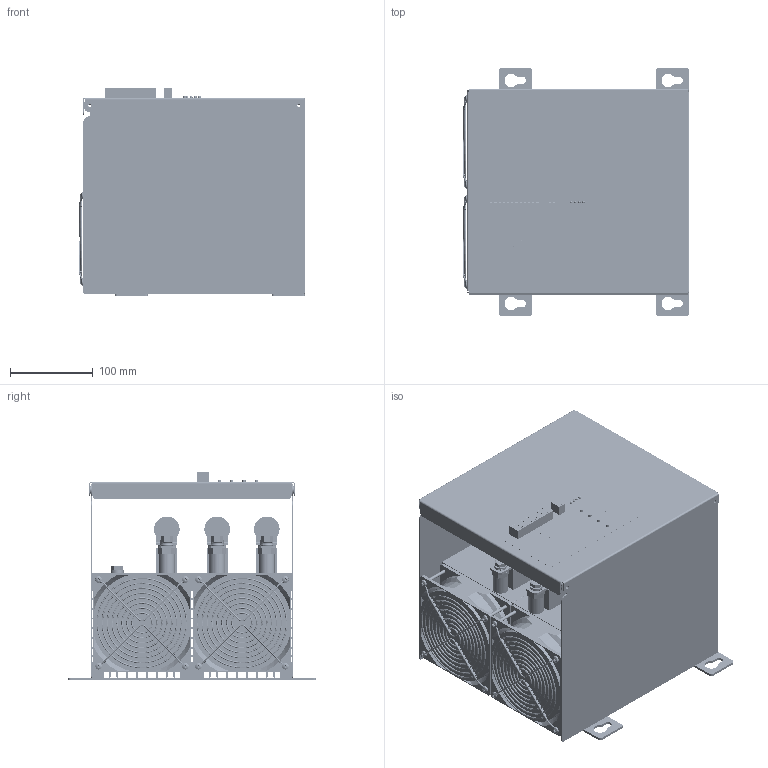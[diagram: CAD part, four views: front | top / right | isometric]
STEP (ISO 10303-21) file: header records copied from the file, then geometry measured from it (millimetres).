
FILE_DESCRIPTION(('STEP AP203'), '1');
FILE_NAME('ÒÐÌ-2Ì-230 RS485, ÒÐÌ-3Ì-230 RS485, ÒÐÌ-3ÌN-230 RS485', '2025-06-11T10:31:48', (''), ('ÎÎÎ "Ìåàíäð"'), 'C3D Converter', 'C3D Toolkit', '');
FILE_SCHEMA(('CONFIG_CONTROL_DESIGN'));
Length unit declared in the file: millimetre
Assembly tree (12 placements, depth 2):
  (unnamed)
    (unnamed)
    (unnamed)
    (unnamed)  x10
Bounding box: 274 x 300 x 252.4 mm (x, y, z)
Volume: 5260274.6 mm3; surface area: 1680703.3 mm2
Topology: 12 solids, 30 shells, 5308 faces, 14900 edges, 9796 vertices
Faces by surface type: plane 2730, extrusion 1520, cylinder 759, torus 104, bspline 100, cone 83, sphere 12
Full cylindrical faces by diameter (mm): 2.459 x1, 3 x4, 3.3 x14, 4 x16, 4.2 x4, 4.572 x16, 4.917 x2, 6 x13, 6.1 x4, 6.4 x3, 6.647 x1, 8 x29, 8.002 x9, 8.4 x10, 9 x4, 9.1 x1, 9.9 x1, 11.6 x10, 12.1 x9, 16 x20, 18 x3, 19 x9, 28.5 x3, 31 x6
Entity records: 192779 total; most frequent: CARTESIAN_POINT 62708, ORIENTED_EDGE 27240, DIRECTION 19859, EDGE_CURVE 13620, VECTOR 10229, VERTEX_POINT 9164, LINE 8709, EDGE_LOOP 5665
